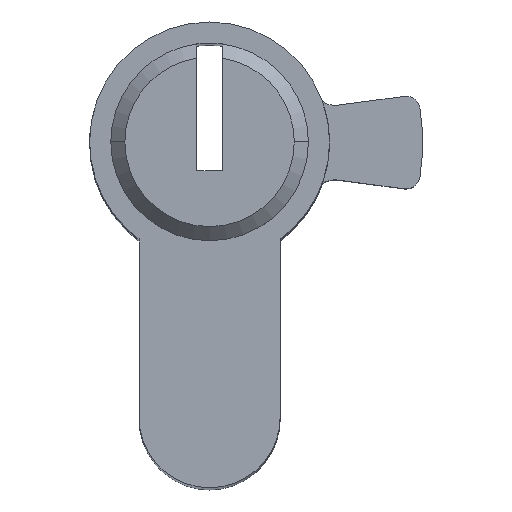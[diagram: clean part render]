
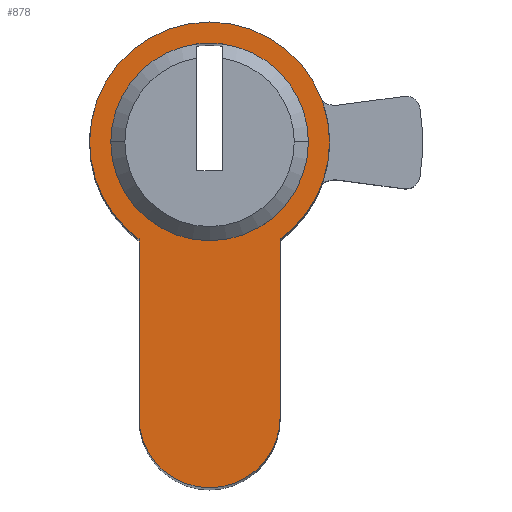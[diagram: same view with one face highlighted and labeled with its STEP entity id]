
A CAD part, top view. The second image highlights one B-rep face of the part: STEP entity #878.
In plain terms, the highlighted planar face has unit normal (0, 0, 1).
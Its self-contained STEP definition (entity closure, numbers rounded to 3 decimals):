
#6 = ORIENTED_EDGE ( 'NONE', *, *, #408, .T. ) ;
#9 = AXIS2_PLACEMENT_3D ( 'NONE', #954, #393, #424 ) ;
#66 = DIRECTION ( 'NONE',  ( 0., 0., 1. ) ) ;
#71 = AXIS2_PLACEMENT_3D ( 'NONE', #1013, #66, #915 ) ;
#74 = CARTESIAN_POINT ( 'NONE',  ( -5., -6.874, 30. ) ) ;
#86 = EDGE_CURVE ( 'NONE', #1677, #1264, #1611, .T. ) ;
#102 = AXIS2_PLACEMENT_3D ( 'NONE', #410, #152, #171 ) ;
#108 = CARTESIAN_POINT ( 'NONE',  ( -5., -6.874, 30. ) ) ;
#111 = VERTEX_POINT ( 'NONE', #934 ) ;
#114 = VERTEX_POINT ( 'NONE', #108 ) ;
#152 = DIRECTION ( 'NONE',  ( 0., 0., 1. ) ) ;
#171 = DIRECTION ( 'NONE',  ( 1., 0., 0. ) ) ;
#193 = DIRECTION ( 'NONE',  ( 0., 0., 1. ) ) ;
#217 = AXIS2_PLACEMENT_3D ( 'NONE', #1714, #510, #372 ) ;
#294 = CARTESIAN_POINT ( 'NONE',  ( -0.9, 6.942, 30. ) ) ;
#318 = EDGE_LOOP ( 'NONE', ( #737, #749, #990, #1182 ) ) ;
#328 = AXIS2_PLACEMENT_3D ( 'NONE', #1493, #1060, #831 ) ;
#332 = CIRCLE ( 'NONE', #388, 5. ) ;
#341 = CARTESIAN_POINT ( 'NONE',  ( 0., 0., 30. ) ) ;
#372 = DIRECTION ( 'NONE',  ( 1., 0., 0. ) ) ;
#384 = AXIS2_PLACEMENT_3D ( 'NONE', #1739, #690, #961 ) ;
#388 = AXIS2_PLACEMENT_3D ( 'NONE', #1357, #1744, #1080 ) ;
#393 = DIRECTION ( 'NONE',  ( 0., 0., 1. ) ) ;
#408 = EDGE_CURVE ( 'NONE', #111, #1590, #1732, .T. ) ;
#410 = CARTESIAN_POINT ( 'NONE',  ( 0., 0., 30. ) ) ;
#424 = DIRECTION ( 'NONE',  ( 1., 0., 0. ) ) ;
#503 = CIRCLE ( 'NONE', #1226, 7. ) ;
#510 = DIRECTION ( 'NONE',  ( 0., 0., 1. ) ) ;
#517 = ORIENTED_EDGE ( 'NONE', *, *, #714, .T. ) ;
#522 = ORIENTED_EDGE ( 'NONE', *, *, #86, .T. ) ;
#575 = VECTOR ( 'NONE', #919, 1000. ) ;
#578 = CIRCLE ( 'NONE', #9, 7. ) ;
#590 = DIRECTION ( 'NONE',  ( 0., 0., 1. ) ) ;
#611 = CARTESIAN_POINT ( 'NONE',  ( -7., 0., 30. ) ) ;
#650 = EDGE_CURVE ( 'NONE', #1600, #1586, #1429, .T. ) ;
#657 = CARTESIAN_POINT ( 'NONE',  ( -5., -19.5, 30. ) ) ;
#690 = DIRECTION ( 'NONE',  ( 0., 0., 1. ) ) ;
#714 = EDGE_CURVE ( 'NONE', #114, #1345, #1662, .T. ) ;
#737 = ORIENTED_EDGE ( 'NONE', *, *, #1519, .F. ) ;
#749 = ORIENTED_EDGE ( 'NONE', *, *, #946, .F. ) ;
#760 = EDGE_CURVE ( 'NONE', #1590, #114, #921, .T. ) ;
#831 = DIRECTION ( 'NONE',  ( 1., 0., 0. ) ) ;
#878 = ADVANCED_FACE ( 'NONE', ( #1309, #1172 ), #924, .T. ) ;
#880 = CARTESIAN_POINT ( 'NONE',  ( 5., -6.874, 30. ) ) ;
#882 = DIRECTION ( 'NONE',  ( 1., 0., 0. ) ) ;
#915 = DIRECTION ( 'NONE',  ( 1., 0., 0. ) ) ;
#919 = DIRECTION ( 'NONE',  ( 0., 1., 0. ) ) ;
#921 = CIRCLE ( 'NONE', #1343, 8.5 ) ;
#924 = PLANE ( 'NONE',  #217 ) ;
#932 = VERTEX_POINT ( 'NONE', #1084 ) ;
#934 = CARTESIAN_POINT ( 'NONE',  ( 8.5, 0., 30. ) ) ;
#946 = EDGE_CURVE ( 'NONE', #932, #1476, #578, .T. ) ;
#949 = EDGE_CURVE ( 'NONE', #1264, #111, #1704, .T. ) ;
#954 = CARTESIAN_POINT ( 'NONE',  ( 0., 0., 30. ) ) ;
#961 = DIRECTION ( 'NONE',  ( 1., 0., 0. ) ) ;
#968 = EDGE_CURVE ( 'NONE', #1586, #932, #1083, .T. ) ;
#986 = CARTESIAN_POINT ( 'NONE',  ( 0., 0., 30. ) ) ;
#990 = ORIENTED_EDGE ( 'NONE', *, *, #968, .F. ) ;
#1013 = CARTESIAN_POINT ( 'NONE',  ( 0., 0., 30. ) ) ;
#1060 = DIRECTION ( 'NONE',  ( 0., 0., 1. ) ) ;
#1062 = EDGE_LOOP ( 'NONE', ( #1509, #6, #1602, #517, #1219, #522 ) ) ;
#1080 = DIRECTION ( 'NONE',  ( 1., 0., 0. ) ) ;
#1083 = CIRCLE ( 'NONE', #384, 7. ) ;
#1084 = CARTESIAN_POINT ( 'NONE',  ( 7., 0., 30. ) ) ;
#1172 = FACE_OUTER_BOUND ( 'NONE', #1062, .T. ) ;
#1182 = ORIENTED_EDGE ( 'NONE', *, *, #650, .F. ) ;
#1219 = ORIENTED_EDGE ( 'NONE', *, *, #1358, .T. ) ;
#1226 = AXIS2_PLACEMENT_3D ( 'NONE', #986, #590, #1525 ) ;
#1264 = VERTEX_POINT ( 'NONE', #880 ) ;
#1265 = DIRECTION ( 'NONE',  ( 0., -1., 0. ) ) ;
#1309 = FACE_BOUND ( 'NONE', #318, .T. ) ;
#1316 = CARTESIAN_POINT ( 'NONE',  ( 5., -19.5, 30. ) ) ;
#1343 = AXIS2_PLACEMENT_3D ( 'NONE', #341, #193, #882 ) ;
#1345 = VERTEX_POINT ( 'NONE', #657 ) ;
#1357 = CARTESIAN_POINT ( 'NONE',  ( 0., -19.5, 30. ) ) ;
#1358 = EDGE_CURVE ( 'NONE', #1345, #1677, #332, .T. ) ;
#1384 = CARTESIAN_POINT ( 'NONE',  ( 5., -19.5, 30. ) ) ;
#1429 = CIRCLE ( 'NONE', #102, 7. ) ;
#1476 = VERTEX_POINT ( 'NONE', #1499 ) ;
#1493 = CARTESIAN_POINT ( 'NONE',  ( 0., 0., 30. ) ) ;
#1499 = CARTESIAN_POINT ( 'NONE',  ( 0.9, 6.942, 30. ) ) ;
#1509 = ORIENTED_EDGE ( 'NONE', *, *, #949, .T. ) ;
#1519 = EDGE_CURVE ( 'NONE', #1476, #1600, #503, .T. ) ;
#1525 = DIRECTION ( 'NONE',  ( 1., 0., 0. ) ) ;
#1553 = CARTESIAN_POINT ( 'NONE',  ( -8.5, 0., 30. ) ) ;
#1586 = VERTEX_POINT ( 'NONE', #611 ) ;
#1590 = VERTEX_POINT ( 'NONE', #1553 ) ;
#1600 = VERTEX_POINT ( 'NONE', #294 ) ;
#1602 = ORIENTED_EDGE ( 'NONE', *, *, #760, .T. ) ;
#1611 = LINE ( 'NONE', #1316, #575 ) ;
#1620 = VECTOR ( 'NONE', #1265, 1000. ) ;
#1662 = LINE ( 'NONE', #74, #1620 ) ;
#1677 = VERTEX_POINT ( 'NONE', #1384 ) ;
#1704 = CIRCLE ( 'NONE', #328, 8.5 ) ;
#1714 = CARTESIAN_POINT ( 'NONE',  ( 0., 0., 30. ) ) ;
#1732 = CIRCLE ( 'NONE', #71, 8.5 ) ;
#1739 = CARTESIAN_POINT ( 'NONE',  ( 0., 0., 30. ) ) ;
#1744 = DIRECTION ( 'NONE',  ( 0., 0., 1. ) ) ;
